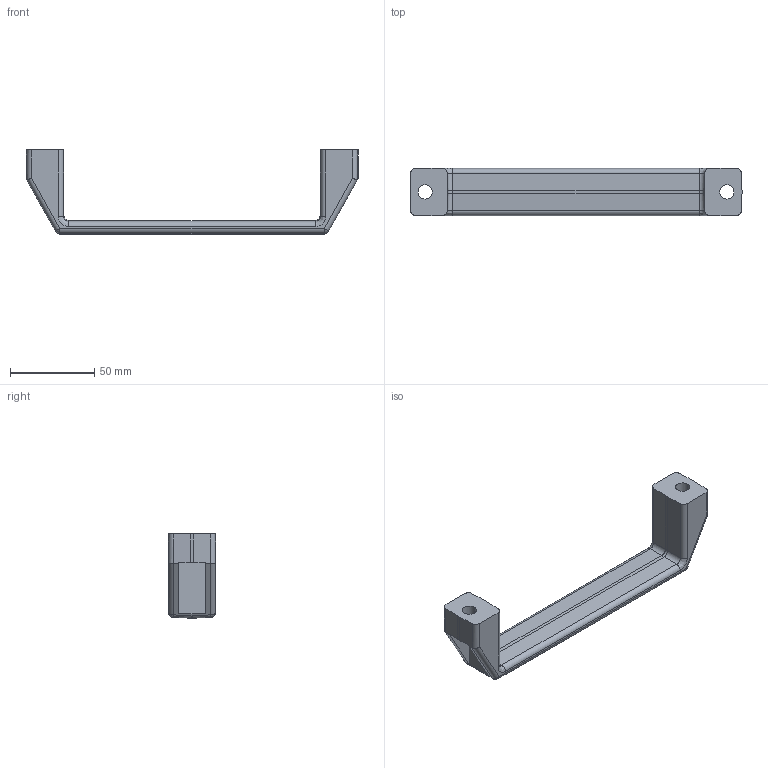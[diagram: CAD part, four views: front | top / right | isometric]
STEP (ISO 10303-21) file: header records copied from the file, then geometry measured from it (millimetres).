
FILE_DESCRIPTION((''),'2;1');
FILE_NAME('MA179','2002-12-27T',('Lipro doo'),('Lipro d.o.o.'),'PRO/ENGINEER BY PARAMETRIC TECHNOLOGY CORPORATION, 2001150','PRO/ENGINEER BY PARAMETRIC TECHNOLOGY CORPORATION, 2001150','');
FILE_SCHEMA(('CONFIG_CONTROL_DESIGN'));
Length unit declared in the file: millimetre
Products named in the file (1): MA179
Bounding box: 197 x 28 x 50 mm (x, y, z)
Volume: 63502.4 mm3; surface area: 21816.7 mm2
Topology: 1 solids, 1 shells, 76 faces, 188 edges, 116 vertices
Faces by surface type: plane 34, cylinder 34, sphere 4, bspline 4
Entity records: 2555 total; most frequent: CARTESIAN_POINT 745, ORIENTED_EDGE 376, DIRECTION 350, EDGE_CURVE 188, VECTOR 118, LINE 118, AXIS2_PLACEMENT_3D 116, VERTEX_POINT 116
